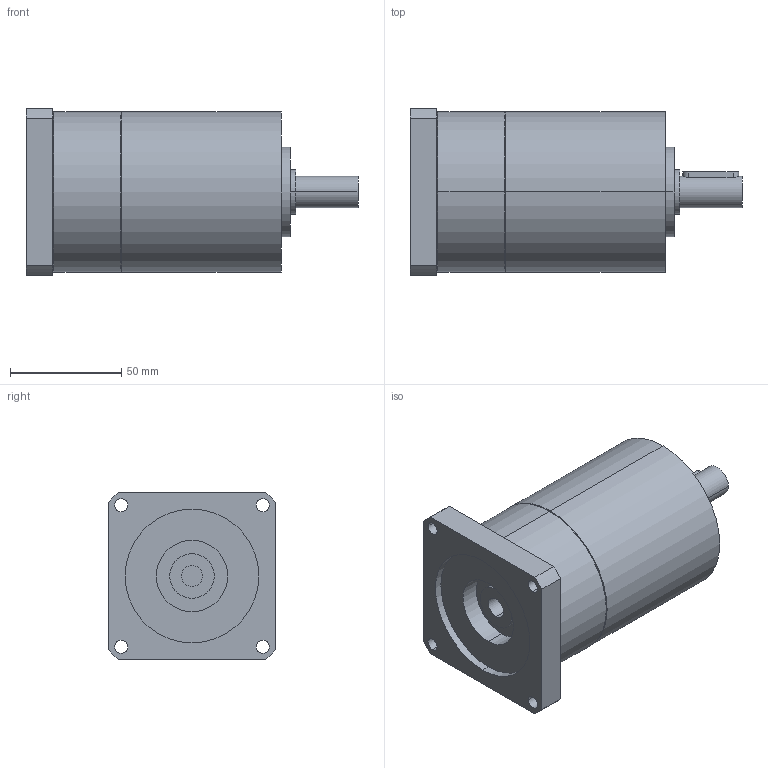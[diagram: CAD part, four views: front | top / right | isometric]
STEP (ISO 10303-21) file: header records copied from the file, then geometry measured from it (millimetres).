
FILE_DESCRIPTION(('CoCreate Modeling STEP Export'),'2;1');
FILE_NAME('GPT75_ig-9-12-16-20-25-28-35-40-50-70-100_14_B14T_9.52_P15.stp','2014-08-27T13:24:52',(''),(''),'CoCreate Modeling STEP processor for AP214 (Solid Model)','CoCreate Modeling 16.00C 25-Feb-2009 (C) Parametric Technology GmbH','');
FILE_SCHEMA(('AUTOMOTIVE_DESIGN { 1 0 10303 214 1 1 1 1 }'));
Length unit declared in the file: millimetre
Products named in the file (2): GPT75_ig-9-12-16-20-25-28-35-40-50-70-100_14_B14T_9.52_P15
Assembly tree (1 placements, depth 2):
  GPT75_ig-9-12-16-20-25-28-35-40-50-70-100_14_B14T_9.52_P15
    GPT75_ig-9-12-16-20-25-28-35-40-50-70-100_14_B14T_9.52_P15
Bounding box: 149 x 75 x 75 mm (x, y, z)
Volume: 474501.3 mm3; surface area: 44345 mm2
Topology: 1 solids, 1 shells, 69 faces, 166 edges, 113 vertices
Faces by surface type: cylinder 42, plane 23, cone 4
Entity records: 2161 total; most frequent: CARTESIAN_POINT 664, ORIENTED_EDGE 332, DIRECTION 262, EDGE_CURVE 166, VERTEX_POINT 113, AXIS2_PLACEMENT_3D 99, EDGE_LOOP 91, FACE_OUTER_BOUND 69
